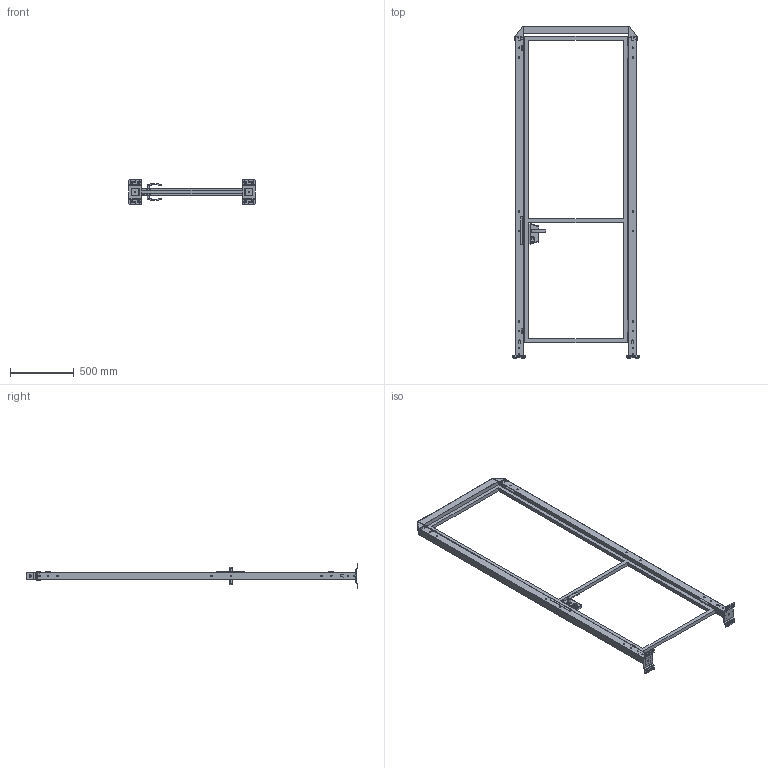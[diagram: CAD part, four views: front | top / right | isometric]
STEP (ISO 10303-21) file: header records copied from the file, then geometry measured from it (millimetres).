
FILE_DESCRIPTION(('STEP AP242'),'1');
FILE_NAME('vfda_bscgd03_08002520.stp','2025-01-31T11:30:29',('TraceParts'),('TraceParts S.A.'),'Spatial InterOp 3D',' ',' ');
FILE_SCHEMA(('AP242_MANAGED_MODEL_BASED_3D_ENGINEERING_MIM_LF {1 0 10303 442 1 1 4}'));
Length unit declared in the file: millimetre
Products named in the file (1): vfda_bscgd03_08002520_1
Bounding box: 990 x 2601 x 192 mm (x, y, z)
Volume: 9210488.3 mm3; surface area: 3887425 mm2
Topology: 13 solids, 13 shells, 1629 faces, 4331 edges, 2766 vertices
Faces by surface type: plane 807, cylinder 554, bspline 194, cone 46, torus 28
Entity records: 67608 total; most frequent: CARTESIAN_POINT 14334, ORIENTED_EDGE 8662, DIRECTION 7987, EDGE_CURVE 4331, VERTEX_POINT 2766, AXIS2_PLACEMENT_3D 2674, LINE 2639, VECTOR 2639
